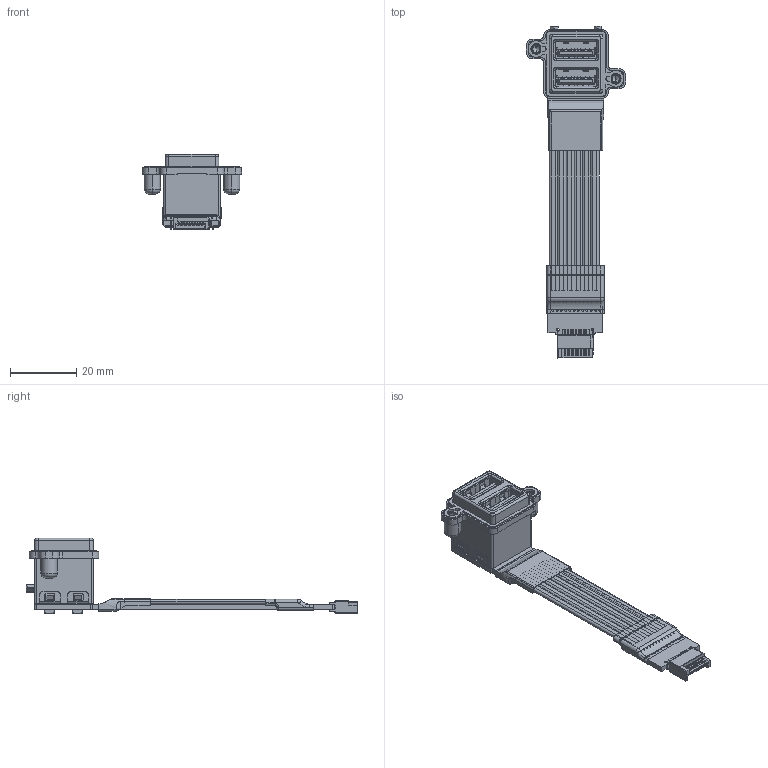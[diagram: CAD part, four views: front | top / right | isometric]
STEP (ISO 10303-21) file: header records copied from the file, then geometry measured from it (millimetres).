
FILE_DESCRIPTION(('Open CASCADE Model'),'2;1');
FILE_NAME('Open CASCADE Shape Model','2023-07-17T16:22:56',('Author'),( 'Open CASCADE'),'Open CASCADE STEP processor 6.8','Open CASCADE 6.8' ,'Unknown');
FILE_SCHEMA(('AUTOMOTIVE_DESIGN { 1 0 10303 214 1 1 1 1 }'));
Length unit declared in the file: millimetre
Products named in the file (11): PCB; Board; Open CASCADE STEP translator 6.8 4.1.1; Designator13; KEY-B__20230518(2); Open CASCADE STEP translator 6.8 4.3; M-MUSBR-4593-X0_20230412; Free-Models; KEY-B_HST__180°_20230518（2）; DP5A-8T_窪伎_4.0; UF5D_HST_20230510_RGB3289650
Assembly tree (10 placements, depth 3):
  PCB
    Board
      Open CASCADE STEP translator 6.8 4.1.1
    Designator13
      KEY-B__20230518(2)
    Open CASCADE STEP translator 6.8 4.3
      M-MUSBR-4593-X0_20230412
    Free-Models
      KEY-B_HST__180°_20230518（2）
      DP5A-8T_窪伎_4.0
      UF5D_HST_20230510_RGB3289650
Bounding box: 30 x 100.29 x 22.75 mm (x, y, z)
Volume: 7525.9 mm3; surface area: 19157.4 mm2
Topology: 126 solids, 129 shells, 2758 faces, 7174 edges, 4704 vertices
Faces by surface type: plane 1445, cylinder 1050, torus 134, bspline 74, revolution 25, cone 16, sphere 14
Full cylindrical faces by diameter (mm): 0.58 x48, 0.7 x18, 0.8 x2
Entity records: 101186 total; most frequent: CARTESIAN_POINT 24973, ORIENTED_EDGE 14324, DIRECTION 12777, EDGE_CURVE 7162, VERTEX_POINT 4704, LINE 4346, VECTOR 4346, AXIS2_PLACEMENT_3D 4203
